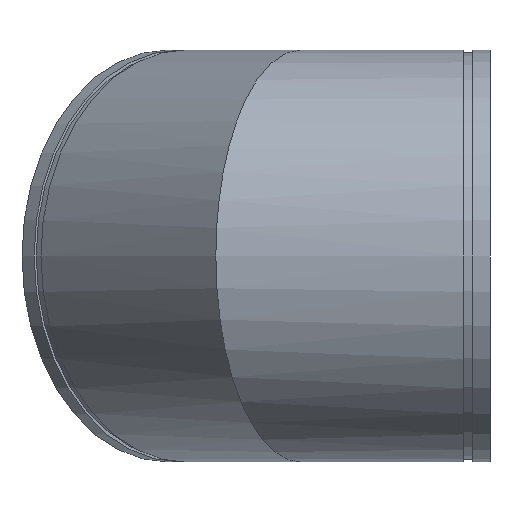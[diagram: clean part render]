
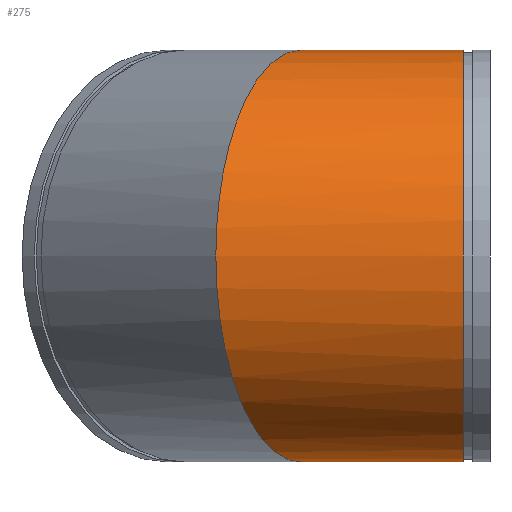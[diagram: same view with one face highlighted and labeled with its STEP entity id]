
A CAD part, left-side view. The second image highlights one B-rep face of the part: STEP entity #275.
In plain terms, the highlighted cylindrical face has radius 304.8 mm (diameter 609.6 mm), a full revolution.
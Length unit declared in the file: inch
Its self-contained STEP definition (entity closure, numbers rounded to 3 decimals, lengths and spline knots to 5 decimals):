
#48=ELLIPSE('',#329,12.98871,12.);
#49=ELLIPSE('',#330,12.98871,12.);
#50=ELLIPSE('',#331,12.98871,12.);
#73=FACE_OUTER_BOUND('',#91,.T.);
#91=EDGE_LOOP('',(#225,#226,#227,#228,#229,#230));
#103=LINE('',#513,#111);
#111=VECTOR('',#416,12.);
#117=CIRCLE('',#305,12.);
#133=VERTEX_POINT('',#468);
#148=VERTEX_POINT('',#512);
#149=VERTEX_POINT('',#514);
#150=VERTEX_POINT('',#516);
#156=EDGE_CURVE('',#133,#133,#117,.T.);
#176=EDGE_CURVE('',#133,#148,#103,.T.);
#177=EDGE_CURVE('',#148,#149,#48,.T.);
#178=EDGE_CURVE('',#150,#149,#49,.T.);
#179=EDGE_CURVE('',#150,#148,#50,.T.);
#225=ORIENTED_EDGE('',*,*,#156,.T.);
#226=ORIENTED_EDGE('',*,*,#176,.T.);
#227=ORIENTED_EDGE('',*,*,#177,.T.);
#228=ORIENTED_EDGE('',*,*,#178,.F.);
#229=ORIENTED_EDGE('',*,*,#179,.T.);
#230=ORIENTED_EDGE('',*,*,#176,.F.);
#247=CYLINDRICAL_SURFACE('',#328,12.);
#275=ADVANCED_FACE('',(#73),#247,.T.);
#305=AXIS2_PLACEMENT_3D('',#469,#363,#364);
#328=AXIS2_PLACEMENT_3D('',#511,#414,#415);
#329=AXIS2_PLACEMENT_3D('',#515,#417,#418);
#330=AXIS2_PLACEMENT_3D('',#517,#419,#420);
#331=AXIS2_PLACEMENT_3D('',#518,#421,#422);
#363=DIRECTION('center_axis',(0.,1.,0.));
#364=DIRECTION('ref_axis',(1.,0.,0.));
#414=DIRECTION('center_axis',(0.,-1.,0.));
#415=DIRECTION('ref_axis',(1.,0.,0.));
#416=DIRECTION('',(0.,1.,0.));
#417=DIRECTION('center_axis',(-0.383,-0.924,0.));
#418=DIRECTION('ref_axis',(0.924,-0.383,0.));
#419=DIRECTION('center_axis',(0.383,0.924,0.));
#420=DIRECTION('ref_axis',(0.924,-0.383,0.));
#421=DIRECTION('center_axis',(-0.383,-0.924,0.));
#422=DIRECTION('ref_axis',(0.924,-0.383,0.));
#468=CARTESIAN_POINT('',(-12.,-9.437,0.));
#469=CARTESIAN_POINT('Origin',(0.,-9.437,0.));
#511=CARTESIAN_POINT('Origin',(0.,0.,0.));
#512=CARTESIAN_POINT('',(-12.,4.97056,0.));
#513=CARTESIAN_POINT('',(-12.,0.,0.));
#514=CARTESIAN_POINT('',(0.,0.,-12.));
#515=CARTESIAN_POINT('Origin',(0.,0.,0.));
#516=CARTESIAN_POINT('',(0.,0.,12.));
#517=CARTESIAN_POINT('Origin',(0.,0.,0.));
#518=CARTESIAN_POINT('Origin',(0.,0.,0.));
